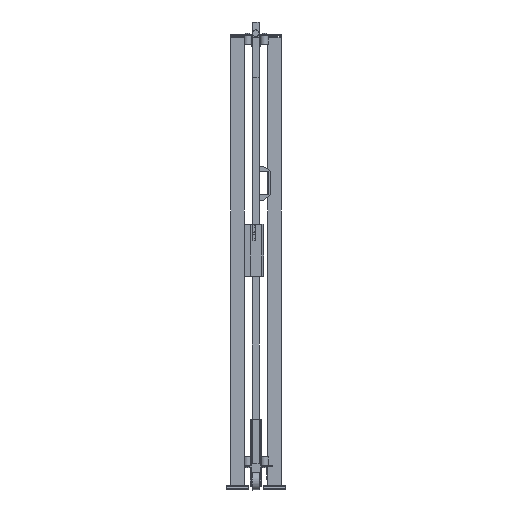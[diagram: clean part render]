
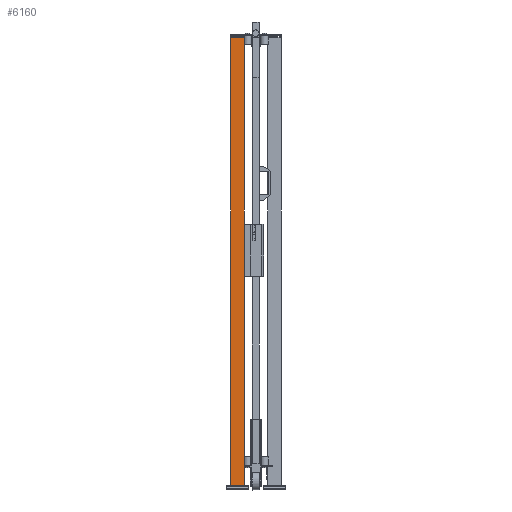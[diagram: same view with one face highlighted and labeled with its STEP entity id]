
A CAD part, left-side view. The second image highlights one B-rep face of the part: STEP entity #6160.
In plain terms, the highlighted planar face has unit normal (-1, 0, 0) as drawn and (0, 1, 0) by its records, which use the part's own axes.
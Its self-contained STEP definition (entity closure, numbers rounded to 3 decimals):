
#615=FACE_OUTER_BOUND('',#1088,.T.);
#1088=EDGE_LOOP('',(#3977,#3978,#3979,#3980));
#1634=VERTEX_POINT('',#13673);
#1635=VERTEX_POINT('',#13675);
#1637=VERTEX_POINT('',#13681);
#1640=VERTEX_POINT('',#13686);
#2532=EDGE_CURVE('',#1634,#1635,#7456,.T.);
#2538=EDGE_CURVE('',#1640,#1637,#7462,.T.);
#2541=EDGE_CURVE('',#1635,#1640,#7465,.T.);
#2542=EDGE_CURVE('',#1634,#1637,#7466,.T.);
#3977=ORIENTED_EDGE('',*,*,#2542,.T.);
#3978=ORIENTED_EDGE('',*,*,#2538,.F.);
#3979=ORIENTED_EDGE('',*,*,#2541,.F.);
#3980=ORIENTED_EDGE('',*,*,#2532,.F.);
#5731=PLANE('',#9521);
#6160=ADVANCED_FACE('',(#615),#5731,.F.);
#7456=LINE('',#13676,#8626);
#7462=LINE('',#13688,#8632);
#7465=LINE('',#13693,#8635);
#7466=LINE('',#13695,#8636);
#8626=VECTOR('',#10749,1.);
#8632=VECTOR('',#10757,1.);
#8635=VECTOR('',#10764,1.);
#8636=VECTOR('',#10767,1.);
#9521=AXIS2_PLACEMENT_3D('',#13694,#10765,#10766);
#10749=DIRECTION('',(-1.,0.,0.));
#10757=DIRECTION('',(1.,0.,0.));
#10764=DIRECTION('',(0.,0.,-1.));
#10765=DIRECTION('center_axis',(0.,-1.,0.));
#10766=DIRECTION('ref_axis',(0.,0.,-1.));
#10767=DIRECTION('',(0.,0.,-1.));
#13673=CARTESIAN_POINT('',(30.,30.,2020.));
#13675=CARTESIAN_POINT('',(-30.,30.,2020.));
#13676=CARTESIAN_POINT('',(0.,30.,2020.));
#13681=CARTESIAN_POINT('',(30.,30.,20.));
#13686=CARTESIAN_POINT('',(-30.,30.,20.));
#13688=CARTESIAN_POINT('',(0.,30.,20.));
#13693=CARTESIAN_POINT('',(-30.,30.,1020.));
#13694=CARTESIAN_POINT('Origin',(0.,30.,
1020.));
#13695=CARTESIAN_POINT('',(30.,30.,1020.));
